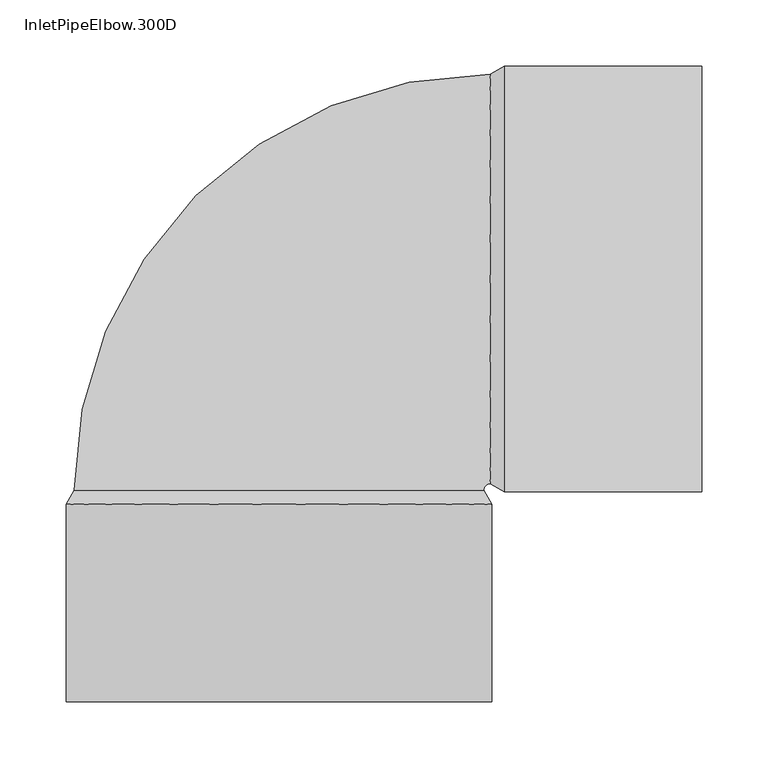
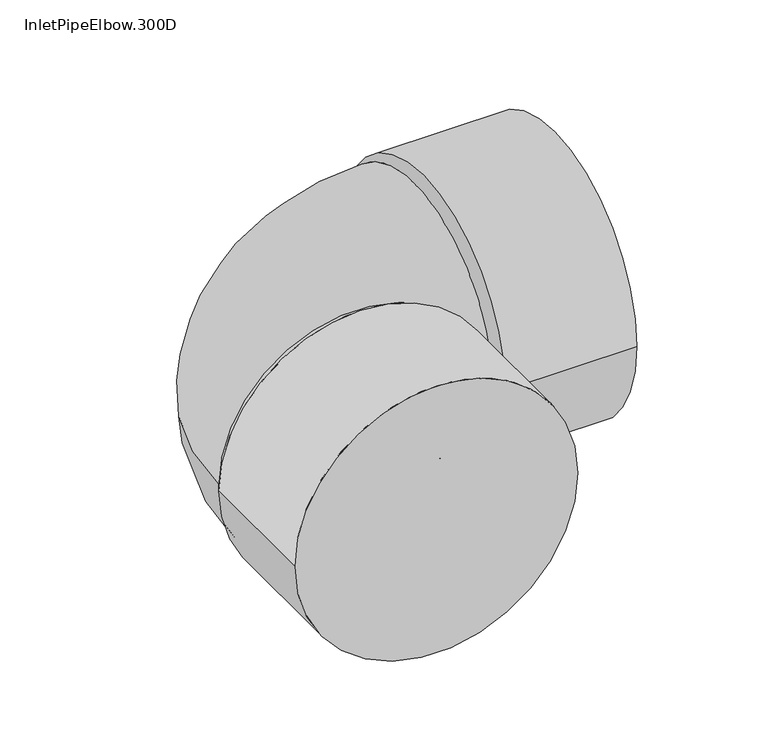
"""IFC4 building model written with IfcOpenShell, lengths in millimetres: proxy geometry, InletPipeElbow.300D."""

from ifc_helpers import new_model, si_unit, point, frame, origin, place, context, project, spatial, polyline, circle_curve, ellipse_curve, trimmed, source, transform, mapped, element, save
from ifc_brep_helpers import plane_surface, cylinder_surface, revolved_surface, advanced_brep


def inletpipeelbow_300d_10dc9381(model_context):
    return source(origin(), model_context, "Body", "AdvancedBrep", [
        advanced_brep(
        [(0.0, 155.0, 0.0), (-315.0, -160.0, 0.0), (-5.0, -160.0, 0.0), (0.0, -155.0, 0.0), (1.0, -170.3923048, 0.0), (-321.0, -170.3923048, 0.0), (-160.0, -160.0, -155.0), (1.0, -320.0, 0.0), (-321.0, -320.0, 0.0), (10.3923048, -161.0, 0.0), (10.3923048, 161.0, 0.0), (159.9966666, -161.0, 0.0), (159.9966666, 161.0, 0.0)],
        [
            (0, 1, circle_curve(frame((0.0, -160.0, 0.0), z_axis=(0.0, 0.0, 1.0), x_axis=(0.0, 1.0, 0.0)), 315.0)),
            (1, 2, circle_curve(frame((-160.0, -160.0, 0.0), z_axis=(0.0, 1.0, 0.0), x_axis=(-1.0, 0.0, 0.0)), 155.0)),
            (2, 3, circle_curve(frame((0.0, -160.0, 0.0), z_axis=(0.0, 0.0, -1.0), x_axis=(0.0, 1.0, 0.0)), 5.0)),
            (3, 0, circle_curve(frame((0.0, 0.0, 0.0), z_axis=(-1.0, 0.0, 0.0), x_axis=(0.0, 1.0, 0.0)), 155.0)),
            (2, 4),
            (4, 5, circle_curve(frame((-160.0, -170.3923048, 0.0), z_axis=(0.0, 1.0, 0.0), x_axis=(-1.0, 0.0, 0.0)), 161.0)),
            (5, 1),
            (1, 6, circle_curve(frame((-160.0, -160.0, 0.0), z_axis=(0.0, -1.0, 0.0), x_axis=(-1.0, 0.0, 0.0)), 155.0)),
            (6, 2, circle_curve(frame((-160.0, -160.0, 0.0), z_axis=(0.0, -1.0, 0.0), x_axis=(-1.0, 0.0, 0.0)), 155.0)),
            (4, 7),
            (7, 8, circle_curve(frame((-160.0, -320.0, 0.0), z_axis=(0.0, 1.0, 0.0), x_axis=(1.0, 0.0, 0.0)), 161.0)),
            (8, 5),
            (3, 9),
            (9, 10, circle_curve(frame((10.3923048, 0.0, 0.0), z_axis=(-1.0, 0.0, 0.0), x_axis=(0.0, 1.0, 0.0)), 161.0)),
            (10, 0),
            (9, 11),
            (11, 12, circle_curve(frame((159.9966666, 0.0, 0.0), z_axis=(-1.0, 0.0, 0.0), x_axis=(0.0, -1.0, 0.0)), 161.0)),
            (12, 10),
            (9, 10, circle_curve(frame((10.3923048, 0.0, 0.0), z_axis=(1.0, 0.0, 0.0), x_axis=(0.0, -1.0, 0.0)), 161.0)),
            (12, 11, circle_curve(frame((159.9966666, 0.0, 0.0), z_axis=(-1.0, 0.0, 0.0), x_axis=(0.0, -1.0, 0.0)), 161.0)),
            (3, 0, circle_curve(frame((0.0, 0.0, 0.0), z_axis=(1.0, 0.0, 0.0), x_axis=(0.0, -1.0, 0.0)), 155.0)),
            (4, 5, circle_curve(frame((-160.0, -170.3923048, 0.0), z_axis=(0.0, -1.0, 0.0), x_axis=(1.0, 0.0, 0.0)), 161.0)),
            (8, 7, circle_curve(frame((-160.0, -320.0, 0.0), z_axis=(0.0, 1.0, 0.0), x_axis=(1.0, 0.0, 0.0)), 161.0)),
        ],
        [
            revolved_surface(trimmed(ellipse_curve(frame((0.0, 0.0, 0.0), z_axis=(1.0, 0.0, 0.0), x_axis=(0.0, 1.0, 0.0)), 155.0, 155.0), [point((0.0, 155.0, 0.0))], [point((0.0, -155.0, 0.0))], True, "CARTESIAN"), (0.0, -160.0, 0.0), (0.0, 0.0, 1.0)),
            revolved_surface(polyline([(-4.999999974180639, -160.0, 0.0), (1.0, -170.39230480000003, 0.0)]), (-160.0, 108.4678752, 0.0), (0.0, -1.0, 0.0)),
            cylinder_surface(frame((-160.0, -244.830127, 0.0), z_axis=(0.0, -1.0, 0.0), x_axis=(1.0, 0.0, 0.0)), 161.0),
            revolved_surface(polyline([(0.0, -155.00000002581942, 0.0), (10.392304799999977, -161.0, 0.0)]), (-268.4678752, 0.0, 0.0), (1.0, 0.0, 0.0)),
            cylinder_surface(frame((84.8284603, 0.0, 0.0), z_axis=(1.0, 0.0, 0.0), x_axis=(0.0, -1.0, 0.0)), 161.0),
            plane_surface(frame((159.9966666, -156.0, 0.0), z_axis=(1.0, 0.0, 0.0), x_axis=(0.0, 0.0, -1.0))),
            plane_surface(frame((-4.0, -320.0, 0.0), z_axis=(0.0, -1.0, 0.0), x_axis=(0.0, 0.0, -1.0))),
            revolved_surface(trimmed(ellipse_curve(frame((0.0, 0.0, 0.0), z_axis=(1.0, 0.0, 0.0), x_axis=(0.0, 1.0, 0.0)), 155.0, 155.0), [point((0.0, -155.0, 0.0))], [point((0.0, 155.0, 0.0))], True, "CARTESIAN"), (0.0, -160.0, 0.0), (0.0, 0.0, 1.0)),
        ],
        [
            (0, [[1, 2, 3, 4]]),
            (1, [[5, 6, 7, 8, 9]]),
            (2, [[10, 11, 12, -6]]),
            (3, [[13, 14, 15, -4]]),
            (4, [[16, 17, 18, -14]]),
            (4, [[-16, 19, -18, 20]]),
            (3, [[-13, 21, -15, -19]]),
            (2, [[-10, 22, -12, 23]]),
            (5, [[-17, -20]]),
            (6, [[-23, -11]]),
            (1, [[-5, -2, -7, -22]]),
            (7, [[-1, -21, -3, -9, -8]]),
        ],
    ),
    ])


if __name__ == "__main__":
    model = new_model("IFC4")
    model_context = context("Model", 3, world=origin())
    ifc_project = project(units=[si_unit("LENGTHUNIT", "METRE", prefix="MILLI")], contexts=[model_context])
    site = spatial("IfcSite", under=ifc_project)
    building = spatial("IfcBuilding", under=site)
    placement = place(None, origin())
    inletpipeelbow_300d_shape = inletpipeelbow_300d_10dc9381(model_context)
    element("IfcBuildingElementProxy", 1, Name="InletPipeElbow.300D", ObjectType="InletPipeElbow.300D", at=placement, inside=building, context=model_context, shape_type="MappedRepresentation", body=[
        mapped(inletpipeelbow_300d_shape, transform((0.0, 0.0, 0.0), x_axis=(1.0, 0.0, 0.0), y_axis=(0.0, 1.0, 0.0), z_axis=(0.0, 0.0, 1.0))),
    ])
    save(model, "model.ifc")
